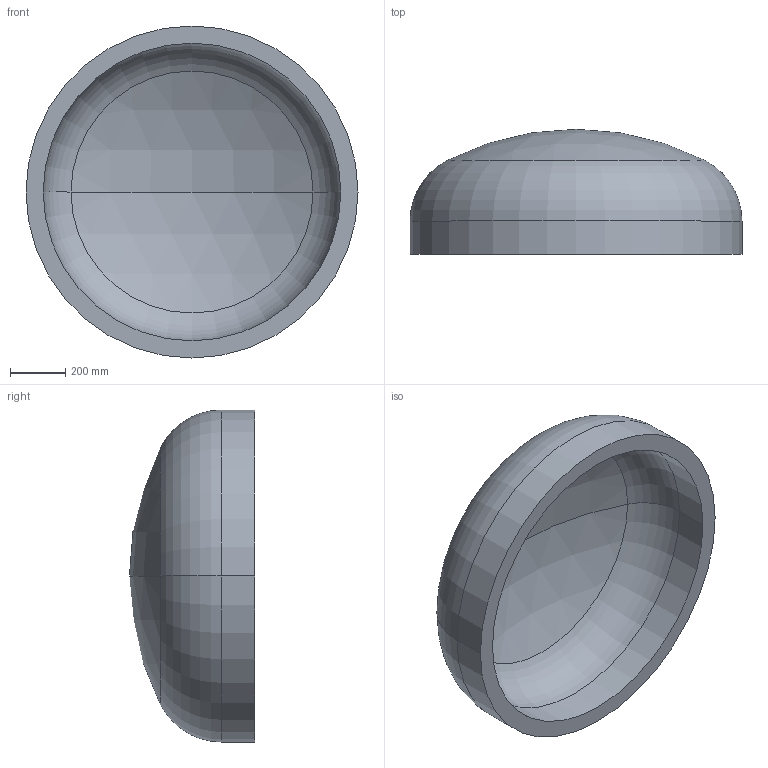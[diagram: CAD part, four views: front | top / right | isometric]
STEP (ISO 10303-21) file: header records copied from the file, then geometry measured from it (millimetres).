
FILE_DESCRIPTION (( 'STEP AP203' ), '1' );
FILE_NAME ('DIN 28013 Korbbogenform_-_Boden DIN 28013 - 1200 x 120 - I - s=62.step', '2016-07-01T09:32:37', ( '' ), ( '' ), 'SwSTEP 2.0', 'SolidWorks 2013', '' );
FILE_SCHEMA (( 'CONFIG_CONTROL_DESIGN' ));
Length unit declared in the file: millimetre
Products named in the file (1): DIN 28013 Korbbogenform_-_Boden DIN 28013 - 1200 x 120 - I - s=62
Bounding box: 1200 x 452.06 x 1200 mm (x, y, z)
Volume: 117504533.9 mm3; surface area: 4020177 mm2
Topology: 1 solids, 1 shells, 13 faces, 24 edges, 14 vertices
Faces by surface type: torus 4, cylinder 4, sphere 4, plane 1
Entity records: 407 total; most frequent: DIRECTION 72, CARTESIAN_POINT 52, ORIENTED_EDGE 48, AXIS2_PLACEMENT_3D 34, EDGE_CURVE 24, CIRCLE 20, EDGE_LOOP 14, VERTEX_POINT 14
